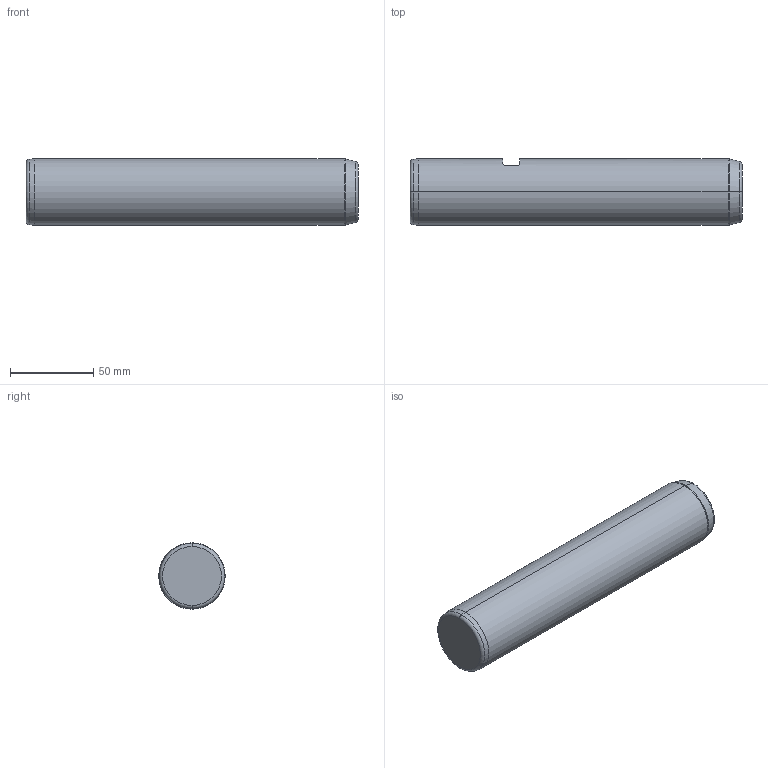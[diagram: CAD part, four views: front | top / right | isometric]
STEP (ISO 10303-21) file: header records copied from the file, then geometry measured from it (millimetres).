
FILE_DESCRIPTION (( 'STEP AP214' ), '1' );
FILE_NAME ('SP202-08-40-200.STEP', '2020-11-03T14:17:23', ( '' ), ( '' ), 'SwSTEP 2.0', 'SolidWorks 2018', '' );
FILE_SCHEMA (( 'AUTOMOTIVE_DESIGN' ));
Length unit declared in the file: millimetre
Products named in the file (1): SP202-08-40-200
Bounding box: 200 x 40 x 40 mm (x, y, z)
Volume: 245108 mm3; surface area: 28526.5 mm2
Topology: 1 solids, 1 shells, 26 faces, 54 edges, 31 vertices
Faces by surface type: cylinder 8, cone 6, torus 6, plane 6
Entity records: 740 total; most frequent: CARTESIAN_POINT 146, DIRECTION 132, ORIENTED_EDGE 104, AXIS2_PLACEMENT_3D 57, EDGE_CURVE 52, VERTEX_POINT 31, CIRCLE 30, EDGE_LOOP 29
